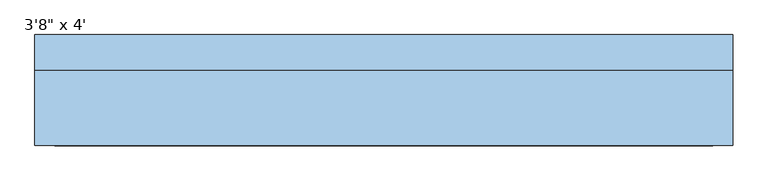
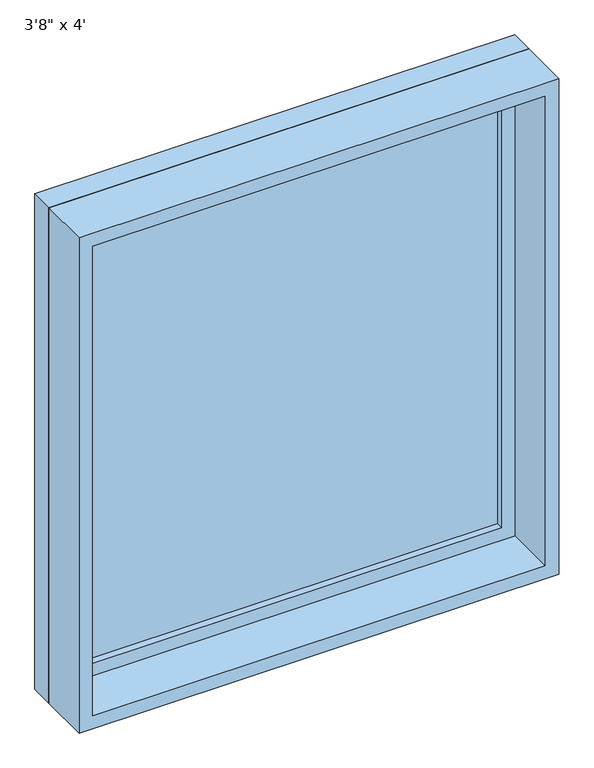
"""IFC4 building model written with IfcOpenShell, lengths in millimetres: window geometry."""

from ifc_helpers import new_model, si_unit, frame, origin, place, context, project, spatial, polyline, outline, extrude, source, transform, mapped, element, save


def window_46490766(model_context):
    return source(origin(), model_context, "Body", "SweptSolid", [
        extrude(outline(polyline([(2114.6, -539.8), (933.4, -539.8), (933.4, 539.8), (2114.6, 539.8), (2114.6, -539.8)]), holes=[polyline([(2070.6, -495.8), (2070.6, 495.8), (977.4, 495.8), (977.4, -495.8), (2070.6, -495.8)])]), frame((0.0, 45.2, 0.0), z_axis=(0.0, 1.0, 0.0), x_axis=(0.0, 0.0, 1.0)), (0.0, 0.0, 1.0), 44.0),
        extrude(outline(polyline([(2133.6, -558.8), (914.4, -558.8), (914.4, 558.8), (2133.6, 558.8), (2133.6, -558.8)]), holes=[polyline([(2114.6, -539.8), (2114.6, 539.8), (933.4, 539.8), (933.4, -539.8), (2114.6, -539.8)])]), frame((0.0, 45.2, 0.0), z_axis=(0.0, 1.0, 0.0), x_axis=(0.0, 0.0, 1.0)), (0.0, 0.0, 1.0), 56.7),
        extrude(outline(polyline([(2133.6, -558.8), (914.4, -558.8), (914.4, 558.8), (2133.6, 558.8), (2133.6, -558.8)]), holes=[polyline([(2101.6, -526.8), (2101.6, 526.8), (946.4, 526.8), (946.4, -526.8), (2101.6, -526.8)])]), frame((0.0, -75.9, 0.0), z_axis=(0.0, 1.0, 0.0), x_axis=(0.0, 0.0, 1.0)), (0.0, 0.0, 1.0), 121.1),
        extrude(outline(polyline([(-495.8, 73.2), (495.8, 73.2), (495.8, 61.2), (-495.8, 61.2), (-495.8, 73.2)])), frame((0.0, 0.0, 977.4), z_axis=(0.0, 0.0, 1.0), x_axis=(1.0, 0.0, 0.0)), (0.0, 0.0, 1.0), 1093.2),
    ])


if __name__ == "__main__":
    model = new_model("IFC4")
    model_context = context("Model", 3, world=origin())
    ifc_project = project(units=[si_unit("LENGTHUNIT", "METRE", prefix="MILLI")], contexts=[model_context])
    site = spatial("IfcSite", under=ifc_project)
    building = spatial("IfcBuilding", under=site)
    placement = place(None, origin())
    window_shape = window_46490766(model_context)
    element("IfcWindow", 1, ObjectType="Planitar-Fixed : 3'8\" x 4'", at=placement, inside=building, context=model_context, shape_type="MappedRepresentation", body=[
        mapped(window_shape, transform((0.0, 0.0, 0.0), x_axis=(1.0, 0.0, 0.0), y_axis=(0.0, 1.0, 0.0), z_axis=(0.0, 0.0, 1.0))),
    ])
    save(model, "model.ifc")
